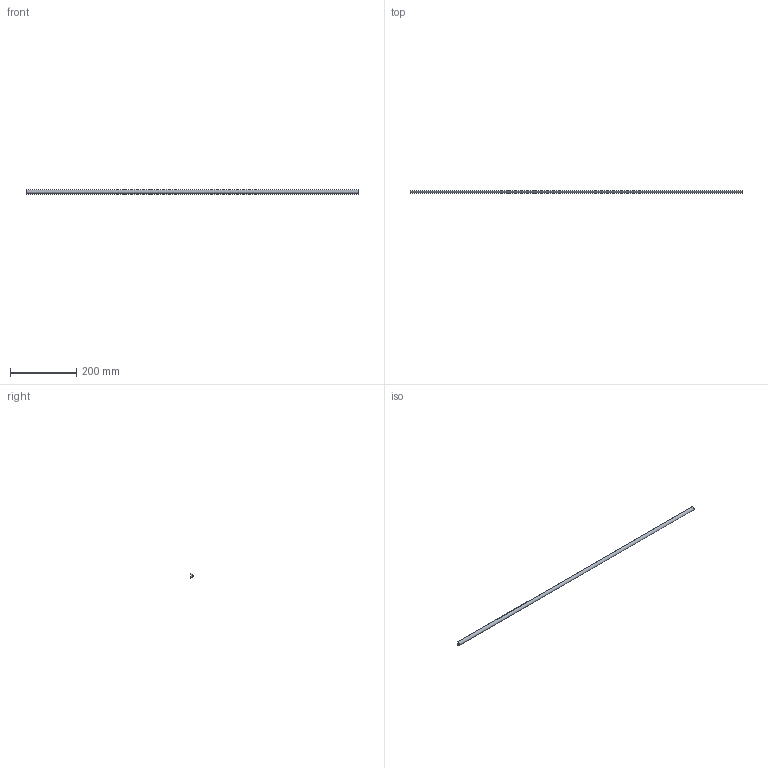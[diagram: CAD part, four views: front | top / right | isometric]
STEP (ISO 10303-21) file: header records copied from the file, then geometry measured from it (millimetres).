
FILE_DESCRIPTION (( 'STEP AP214' ), '1' );
FILE_NAME ('13067_profilstab ST rostfrei.STEP', '2016-06-23T10:27:18', ( '' ), ( '' ), 'SwSTEP 2.0', 'SolidWorks 2016', '' );
FILE_SCHEMA (( 'AUTOMOTIVE_DESIGN' ));
Length unit declared in the file: millimetre
Products named in the file (1): 13067_profilstab ST rostfrei
Bounding box: 1000 x 7.2 x 13.63 mm (x, y, z)
Volume: 67092.6 mm3; surface area: 34431 mm2
Topology: 1 solids, 1 shells, 7 faces, 15 edges, 10 vertices
Faces by surface type: cylinder 3, plane 3, bspline 1
Entity records: 231 total; most frequent: CARTESIAN_POINT 42, DIRECTION 33, ORIENTED_EDGE 30, EDGE_CURVE 15, AXIS2_PLACEMENT_3D 13, VERTEX_POINT 10, VECTOR 7, EDGE_LOOP 7
